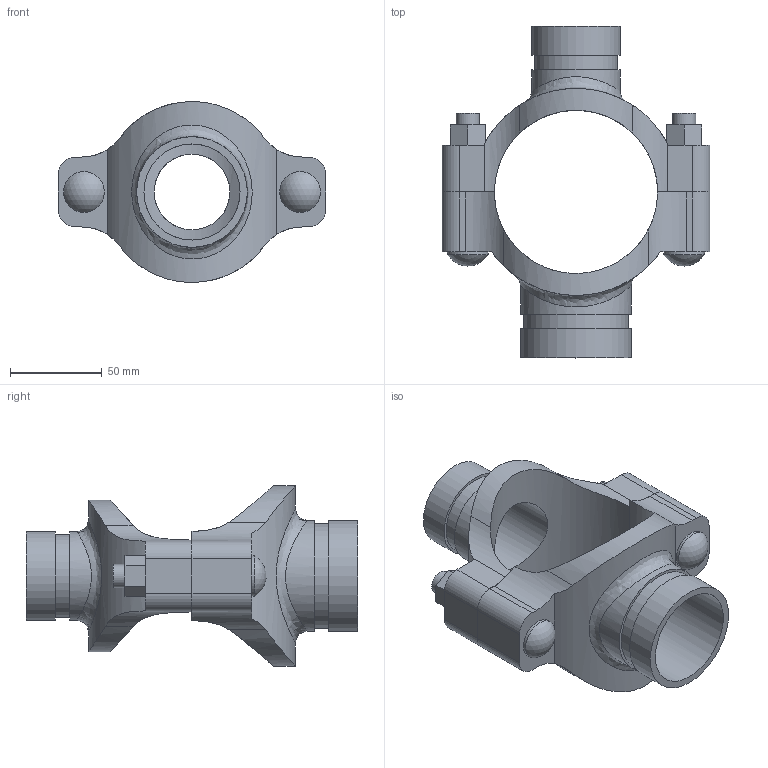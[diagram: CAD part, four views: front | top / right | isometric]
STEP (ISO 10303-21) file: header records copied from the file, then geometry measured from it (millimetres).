
FILE_DESCRIPTION(/* description */ ('VIC MECH-T BRANCH OUTLET CROSS STYLE 920N (GRVD)','CAx-IF Rec.Pracs.---Representation and Presentation of Product Manufacturing Information (PMI)---4.0---2014-10-13'),/* implementation_level */ '2;1');
FILE_NAME(/* name */ 'C:\Users\Vjadhav\AppData\Roaming\Autodesk\ApplicationPlugins\Back Up\Victaulic_IPS_Mechanical-Cross Outlet_Style 920N (OGS)\Victaulic_IPS_Mechanical-Cross Outlet_03.0x01.5x02.0 (80x40x50).stp',/* time_stamp */ '2020-08-06T19:43:31+05:00',/* author */ ('Vjadhav'),/* organization */ ('Victaulic'),/* preprocessor_version */ 'ST-DEVELOPER v17.2',/* originating_system */ 'Autodesk Inventor 2019',/* authorisation */ '');
FILE_SCHEMA (('AP242_MANAGED_MODEL_BASED_3D_ENGINEERING_MIM_LF { 1 0 10303 442 1 1 4 }'));
Length unit declared in the file: inch
Products named in the file (3): 920NG-03.0x01.5x02.0; 920NG-03.0x01.5x01.5; 920NG-03.0x02.0
Assembly tree (2 placements, depth 2):
  920NG-03.0x01.5x02.0
    920NG-03.0x01.5x01.5
    920NG-03.0x02.0
Bounding box: 146.05 x 180.85 x 98.49 mm (x, y, z)
Volume: 312495.2 mm3; surface area: 93139.6 mm2
Topology: 2 solids, 2 shells, 106 faces, 268 edges, 182 vertices
Faces by surface type: plane 54, cylinder 48, sphere 2, bspline 2
Full cylindrical faces by diameter (mm): 12.7 x4, 22.225 x2, 41.275 x1, 45.085 x1, 48.26 x2, 52.387 x1, 57.15 x1, 60.325 x2
Entity records: 4266 total; most frequent: CARTESIAN_POINT 1439, DIRECTION 542, ORIENTED_EDGE 536, EDGE_CURVE 268, AXIS2_PLACEMENT_3D 197, VERTEX_POINT 182, LINE 148, VECTOR 148
